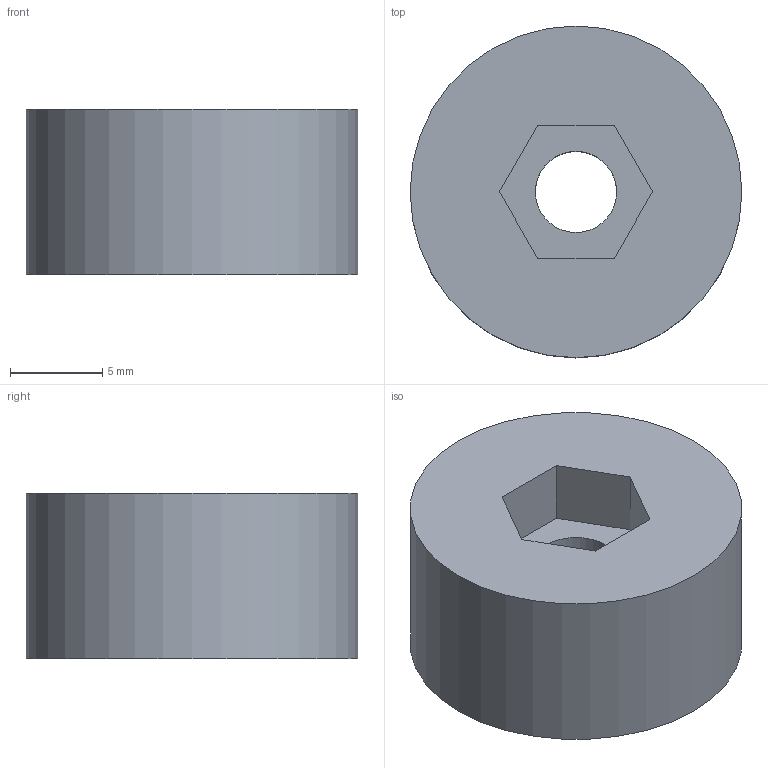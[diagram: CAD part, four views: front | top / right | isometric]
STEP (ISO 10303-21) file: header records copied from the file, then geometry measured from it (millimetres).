
FILE_DESCRIPTION(('Open CASCADE Model'),'2;1');
FILE_NAME('Open CASCADE Shape Model','2026-10-05T13:03:08',('Author'),( 'Open CASCADE'),'Open CASCADE STEP processor 7.9','Open CASCADE 7.9' ,'Unknown');
FILE_SCHEMA(('AUTOMOTIVE_DESIGN { 1 0 10303 214 1 1 1 1 }'));
Length unit declared in the file: millimetre
Products named in the file (1): Open CASCADE STEP translator 7.9 31
Bounding box: 18 x 18 x 9 mm (x, y, z)
Volume: 2049.5 mm3; surface area: 1150.8 mm2
Topology: 1 solids, 1 shells, 11 faces, 24 edges, 16 vertices
Faces by surface type: plane 9, cylinder 2
Full cylindrical faces by diameter (mm): 4.4 x1, 18 x1
Entity records: 628 total; most frequent: CARTESIAN_POINT 100, DIRECTION 100, LINE 64, VECTOR 64, ORIENTED_EDGE 48, PCURVE 48, DEFINITIONAL_REPRESENTATION 48, EDGE_CURVE 24
